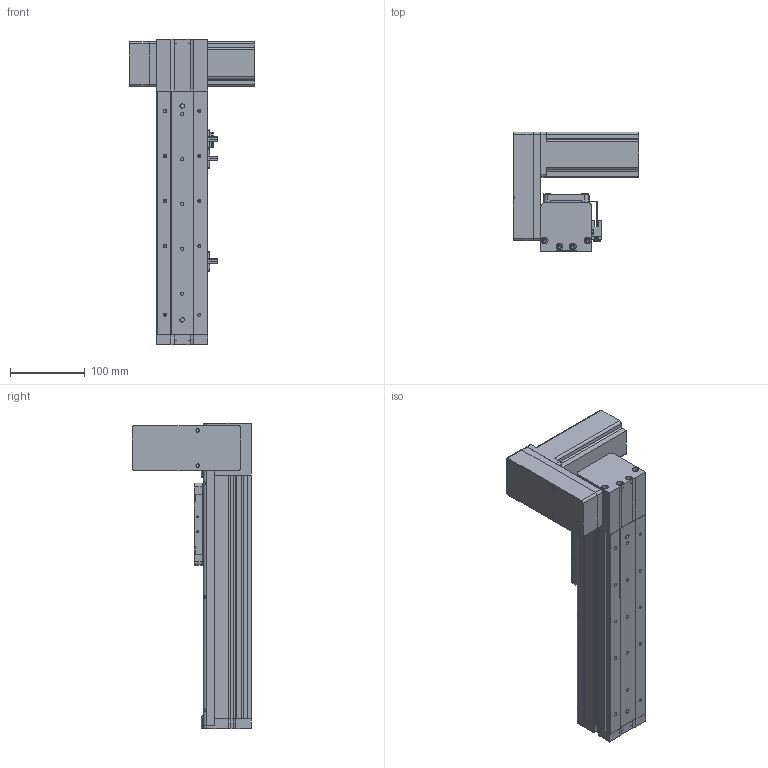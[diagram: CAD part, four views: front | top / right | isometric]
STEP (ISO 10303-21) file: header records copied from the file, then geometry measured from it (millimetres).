
FILE_DESCRIPTION (( 'STEP AP214' ), '1' );
FILE_NAME ('KSD68BS-S150-MRU-CR.STEP', '2019-11-08T05:45:17', ( '微软用户' ), ( '微软中国' ), 'SwSTEP 2.0', 'SolidWorks 2014', '' );
FILE_SCHEMA (( 'AUTOMOTIVE_DESIGN' ));
Length unit declared in the file: millimetre
Products named in the file (14): KSD68BS-S150-MRU-CR; KSD68BS 150行程盖板全封闭; 68宽单导轨全封闭丝杆传动安装板1防护罩; KSD68BS 150行程侧板全封闭; 68宽单导轨全封闭同步带端板; 68单导轨全封闭同步带电机座右; 68单导轨全封闭同步带安装板; 悵誘欶奻狟殏; 68宽马达安装板连板上折同步带; 感应片68宽全封闭; 68遵裔啣揤啣1; U倰嫖萇EEㄜSX672; 台达ECMA－C20604AS伺服电机（400W); KSD68BS 150行程底板全封闭
Assembly tree (17 placements, depth 2):
  KSD68BS-S150-MRU-CR
    KSD68BS 150行程底板全封闭
    台达ECMA－C20604AS伺服电机（400W)
    U倰嫖萇EEㄜSX672  x3
    感应片68宽全封闭
    68宽马达安装板连板上折同步带
    悵誘欶奻狟殏
    68单导轨全封闭同步带安装板
    68单导轨全封闭同步带电机座右
    68宽单导轨全封闭同步带端板
    KSD68BS 150行程侧板全封闭  x2
    68宽单导轨全封闭丝杆传动安装板1防护罩
    68遵裔啣揤啣1  x2
    KSD68BS 150行程盖板全封闭
Bounding box: 167.2 x 159.5 x 408.1 mm (x, y, z)
Volume: 1391777.2 mm3; surface area: 431993.6 mm2
Topology: 18 solids, 18 shells, 1376 faces, 3865 edges, 2485 vertices
Faces by surface type: plane 627, cylinder 617, cone 132
Entity records: 42364 total; most frequent: CARTESIAN_POINT 7103, DIRECTION 6429, ORIENTED_EDGE 6166, EDGE_CURVE 3083, AXIS2_PLACEMENT_3D 2281, VERTEX_POINT 2023, VECTOR 1867, LINE 1867
